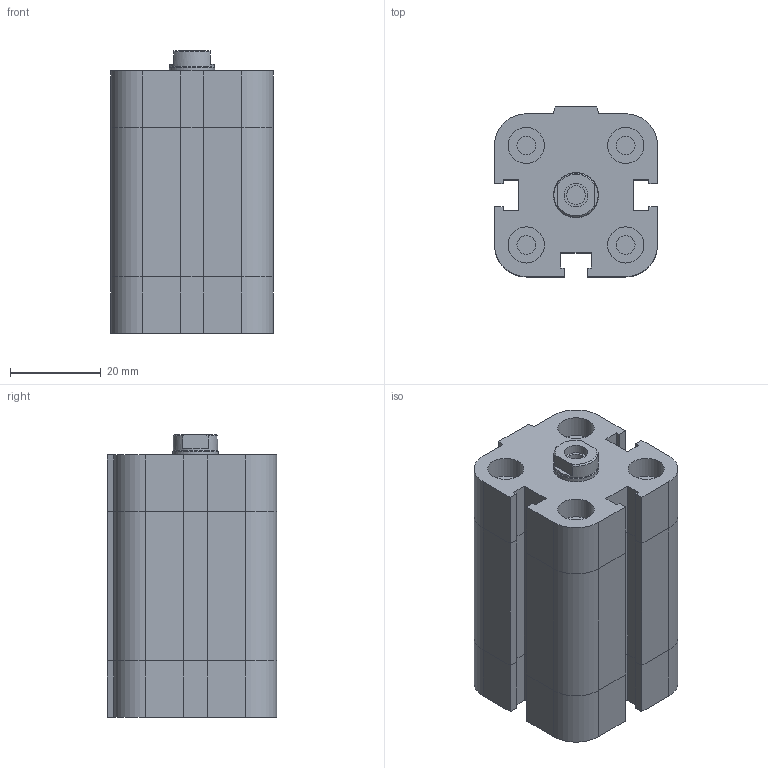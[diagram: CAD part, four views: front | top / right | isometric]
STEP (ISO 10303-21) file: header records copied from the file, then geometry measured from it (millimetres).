
FILE_DESCRIPTION((''),'2;1');
FILE_NAME('I:\Area Tecnica\Disegni\VARIE-3D\Componenti\EUROPE\15##_###_####_01_#\1581_20_0020_01_1.stp','2008-12-19T15:39:05',('rivolro1'),(''),'Autodesk Inventor 2009','Autodesk Inventor 2009','');
FILE_SCHEMA(('AUTOMOTIVE_DESIGN { 1 0 10303 214 1 1 1 1 }'));
Length unit declared in the file: millimetre
Products named in the file (3): 1581_20_0020_01_1; 1581_20_0020_01_1_C; 1561_20_0020_01_1_S
Assembly tree (2 placements, depth 2):
  1581_20_0020_01_1
    1581_20_0020_01_1_C
    1561_20_0020_01_1_S
Bounding box: 36 x 37.5 x 62.5 mm (x, y, z)
Volume: 64283 mm3; surface area: 18152.9 mm2
Topology: 2 solids, 2 shells, 163 faces, 349 edges, 211 vertices
Faces by surface type: plane 112, bspline 26, cylinder 22, cone 3
Full cylindrical faces by diameter (mm): 4.134 x4, 8 x4, 9.8 x1, 10 x1
Entity records: 4455 total; most frequent: CARTESIAN_POINT 952, DIRECTION 662, ORIENTED_EDGE 630, EDGE_CURVE 315, VECTOR 244, LINE 244, AXIS2_PLACEMENT_3D 209, EDGE_LOOP 208
